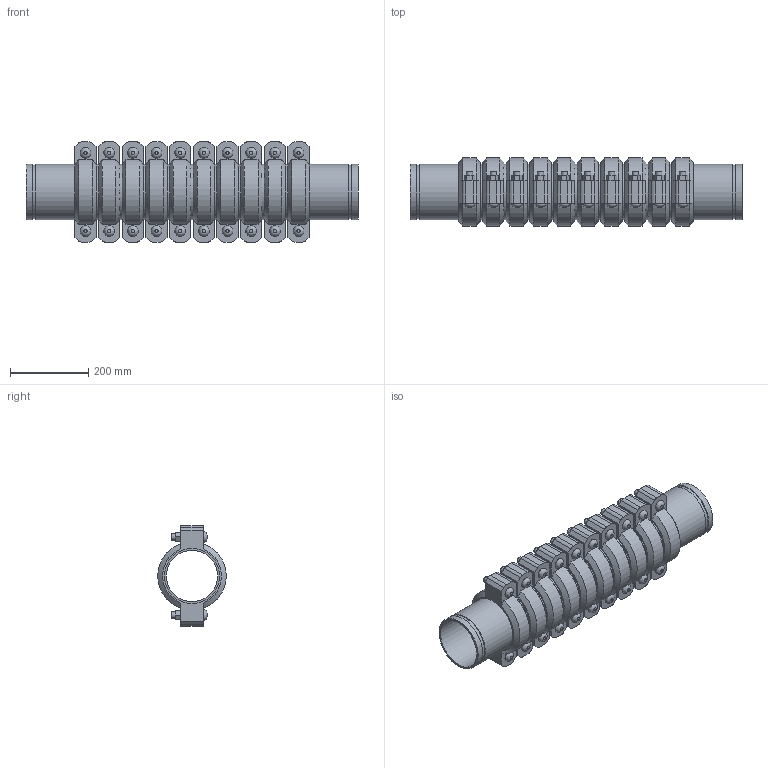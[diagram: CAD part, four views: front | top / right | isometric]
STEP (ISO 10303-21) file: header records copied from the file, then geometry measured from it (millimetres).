
FILE_DESCRIPTION(/* description */ ('VIC EXPANSION JOINT 10 COUPLINGS COMPRESSED STYLE 155 (OGS)','CAx-IF Rec.Pracs.---Representation and Presentation of Product Manufacturing Information (PMI)---4.0---2014-10-13'),/* implementation_level */ '2;1');
FILE_NAME(/* name */ 'C:\Users\kkamble\AppData\Roaming\Autodesk\ApplicationPlugins\Victaulic.Temp\A539\Victaulic_IPS_Expansion Joint_Compressed_10 Couplings_Style 155 (OGS)_5 (125).stp',/* time_stamp */ '2021-06-27T00:16:49+02:00',/* author */ ('kkamble'),/* organization */ ('Victaulic'),/* preprocessor_version */ 'ST-DEVELOPER v17.2',/* originating_system */ 'Autodesk Inventor 2019',/* authorisation */ '');
FILE_SCHEMA (('AP242_MANAGED_MODEL_BASED_3D_ENGINEERING_MIM_LF { 1 0 10303 442 1 1 4 }'));
Length unit declared in the file: inch
Products named in the file (4): 155-05.0; Nipple-05.0; Nipple-05.0_1; 075_10_Coup-05.0
Assembly tree (21 placements, depth 2):
  155-05.0
    Nipple-05.0  x2
    Nipple-05.0_1  x9
    075_10_Coup-05.0  x10
Bounding box: 848.11 x 174.16 x 255.78 mm (x, y, z)
Volume: 8361501.8 mm3; surface area: 1823118.5 mm2
Topology: 21 solids, 41 shells, 702 faces, 1660 edges, 1164 vertices
Faces by surface type: plane 426, cylinder 216, cone 40, bspline 20
Full cylindrical faces by diameter (mm): 15.875 x40, 17.424 x20, 130.988 x11, 134.95 x10, 137.033 x22, 141.3 x53
Entity records: 2890 total; most frequent: CARTESIAN_POINT 505, DIRECTION 485, ORIENTED_EDGE 386, AXIS2_PLACEMENT_3D 196, EDGE_CURVE 193, VERTEX_POINT 138, EDGE_LOOP 107, LINE 93
